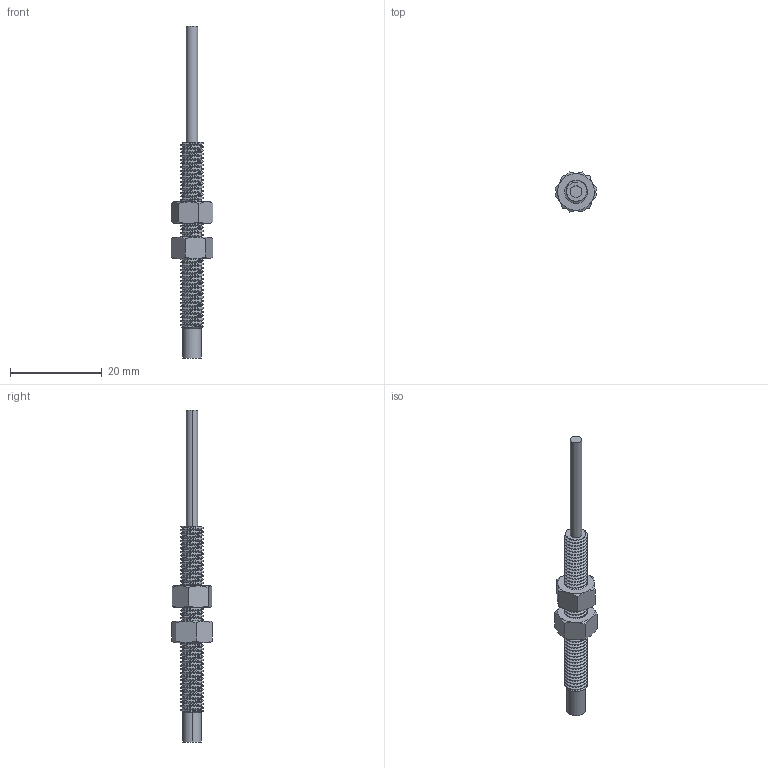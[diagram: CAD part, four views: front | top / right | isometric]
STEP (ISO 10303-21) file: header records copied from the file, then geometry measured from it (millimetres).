
FILE_DESCRIPTION (( 'STEP AP214' ), '1' );
FILE_NAME ('5CM.STEP', '2010-03-05T18:52:20', ( 'tom edwards' ), ( 'Tom J. Edwards' ), 'SwSTEP 2.0', 'SolidWorks 2008', '' );
FILE_SCHEMA (( 'AUTOMOTIVE_DESIGN' ));
Length unit declared in the file: millimetre
Products named in the file (3): 5CM_Thread Runout; 5CM; Hex Nut Style 1_AM_B18.2.4.1M - Hex nut, Style 1,  M5 x 0.8 --D-S
Assembly tree (3 placements, depth 2):
  5CM
    Hex Nut Style 1_AM_B18.2.4.1M - Hex nut, Style 1,  M5 x 0.8 --D-S  x2
    5CM_Thread Runout
Bounding box: 9.07 x 8.73 x 72.4 mm (x, y, z)
Volume: 1236.5 mm3; surface area: 1854.8 mm2
Topology: 3 solids, 3 shells, 239 faces, 589 edges, 357 vertices
Faces by surface type: cylinder 134, cone 83, plane 19, bspline 3
Entity records: 13445 total; most frequent: CARTESIAN_POINT 9669, ORIENTED_EDGE 922, DIRECTION 650, EDGE_CURVE 461, VERTEX_POINT 289, AXIS2_PLACEMENT_3D 247, EDGE_LOOP 180, ADVANCED_FACE 177
